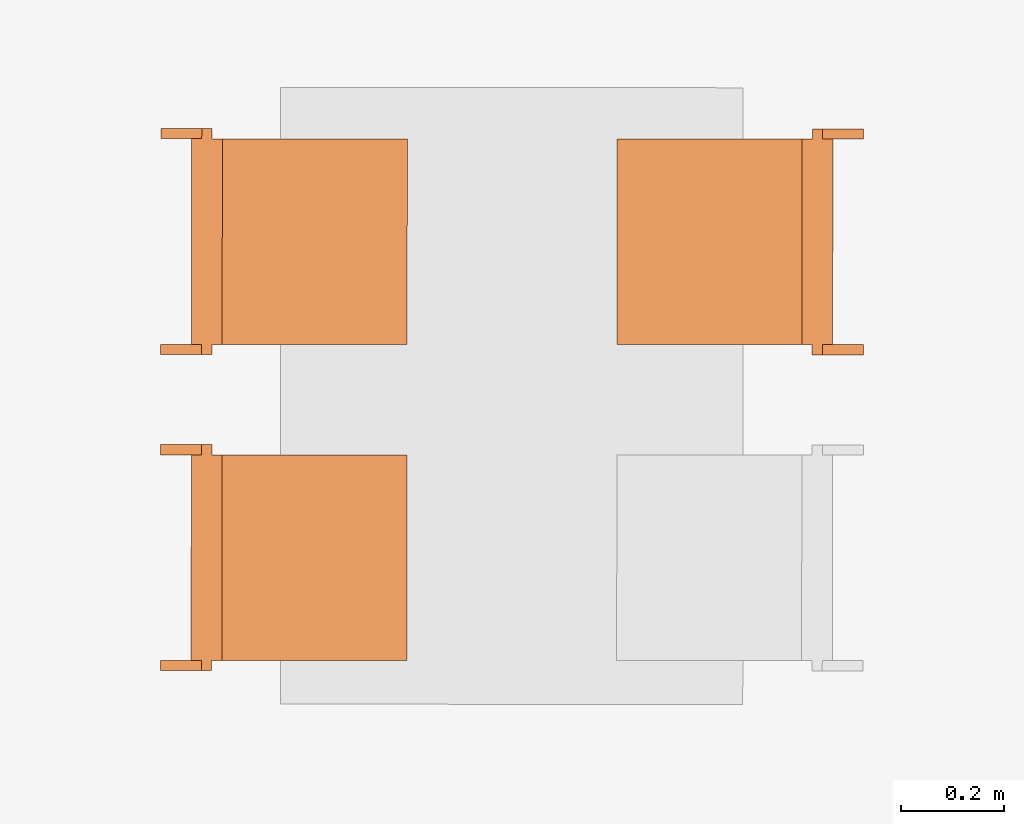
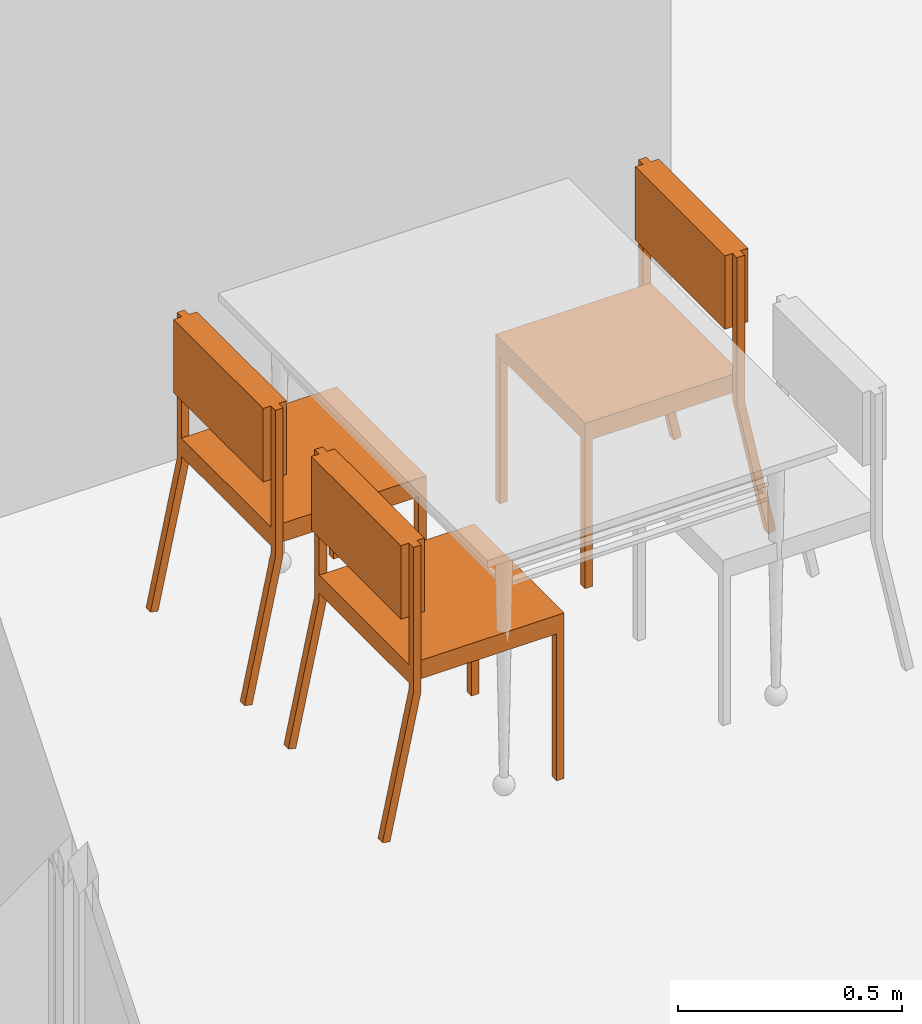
# One storey, part 150 of 171: 3 proxies.
"""IFC2X3 building model written with IfcOpenShell, lengths in millimetres."""

from ifc_helpers import new_model, entity, si_unit, converted_unit, derived_unit, money_unit, direction, frame, origin_with_axes, place, context, subcontext, project, spatial, faceted_brep, source, transform, mapped, type_object, element, save


model = new_model("IFC2X3")

# Units and contexts
model_context = context("Model", 3, precision=0.01, world=origin_with_axes(), true_north=direction((0.0, 1.0)))
body_context = subcontext(model_context, "Body", "Model", "MODEL_VIEW")
ifc_project = project(units=[si_unit("LENGTHUNIT", "METRE", prefix="MILLI"), si_unit("AREAUNIT", "SQUARE_METRE"), si_unit("VOLUMEUNIT", "CUBIC_METRE"), converted_unit("PLANEANGLEUNIT", "DEGREE", entity("IfcPlaneAngleMeasure", 0.0174532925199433), si_unit("PLANEANGLEUNIT", "RADIAN"), dimensions=[0, 0, 0, 0, 0, 0, 0]), money_unit("USD"), converted_unit("TIMEUNIT", "Year", entity("IfcTimeMeasure", 31557600.0), si_unit("TIMEUNIT", "SECOND"), dimensions=[0, 0, 1, 0, 0, 0, 0]), si_unit("MASSUNIT", "GRAM", prefix="KILO"), si_unit("THERMODYNAMICTEMPERATUREUNIT", "DEGREE_CELSIUS"), si_unit("LUMINOUSINTENSITYUNIT", "LUMEN"), si_unit("ENERGYUNIT", "JOULE", prefix="MEGA"), derived_unit("THERMALCONDUCTANCEUNIT", [(si_unit("POWERUNIT", "WATT"), 1), (si_unit("LENGTHUNIT", "METRE"), -1), (si_unit("THERMODYNAMICTEMPERATUREUNIT", "KELVIN"), -1)]), derived_unit("SPECIFICHEATCAPACITYUNIT", [(si_unit("ENERGYUNIT", "JOULE"), 1), (si_unit("MASSUNIT", "GRAM", prefix="KILO"), -1), (si_unit("THERMODYNAMICTEMPERATUREUNIT", "KELVIN"), -1)]), derived_unit("MASSDENSITYUNIT", [(si_unit("MASSUNIT", "GRAM", prefix="KILO"), 1), (si_unit("VOLUMEUNIT", "CUBIC_METRE"), -1)])], contexts=[model_context])

# Site, building, storey
site_placement = place(None, origin_with_axes())
site = spatial("IfcSite", under=ifc_project, at=site_placement, Name="Site", CompositionType="ELEMENT")
building_placement = place(site_placement, origin_with_axes())
building = spatial("IfcBuilding", under=site, at=building_placement, Name="Bâtiment", CompositionType="ELEMENT")
storey_placement = place(building_placement, frame((0.0, 0.0, 3000.0), z_axis=(0.0, 0.0, 1.0), x_axis=(1.0, 0.0, 0.0)))
storey = spatial("IfcBuildingStorey", under=building, at=storey_placement, Name="rdc", CompositionType="ELEMENT", Elevation=3000.0)

# Proxies
building_element_proxy_type = type_object("IfcBuildingElementProxyType", PredefinedType="NOTDEFINED")
shared_shape_1 = source(origin_with_axes(), body_context, "Body", "Brep", [
    faceted_brep([(39.99999978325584, 0.0, 0.0), (19.99999989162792, 0.0, 0.0), (19.99999989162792, 19.99999936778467, 0.0), (39.99999978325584, 19.99999936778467, 0.0), (39.99999978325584, 0.0, 400.0), (19.99999989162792, 0.0, 400.0), (19.99999989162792, 19.99999936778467, 400.0), (39.99999978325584, 19.99999936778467, 400.0)], [[[0, 1, 2, 3]], [[1, 0, 4, 5]], [[2, 1, 5, 6]], [[3, 2, 6, 7]], [[0, 3, 7, 4]], [[5, 4, 7, 6]]]),
    faceted_brep([(419.9999977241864, 0.0, 0.0), (399.9999978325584, 0.0, 0.0), (399.9999978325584, 19.99999936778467, 0.0), (419.9999977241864, 19.99999936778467, 0.0), (419.9999977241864, 0.0, 400.0), (399.9999978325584, 0.0, 400.0), (399.9999978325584, 19.99999936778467, 400.0), (419.9999977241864, 19.99999936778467, 400.0)], [[[0, 1, 2, 3]], [[1, 0, 4, 5]], [[2, 1, 5, 6]], [[3, 2, 6, 7]], [[0, 3, 7, 4]], [[5, 4, 7, 6]]]),
    faceted_brep([(399.9999978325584, 0.0, 400.0000000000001), (39.99999978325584, 0.0, 400.0000000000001), (39.99999978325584, 19.99999936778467, 400.0000000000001), (399.9999978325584, 19.99999936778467, 400.0000000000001), (399.9999978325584, 0.0, 420.0000000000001), (39.99999978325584, 0.0, 420.0000000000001), (39.99999978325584, 19.99999936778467, 420.0000000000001), (399.9999978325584, 19.99999936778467, 420.0000000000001)], [[[0, 1, 2, 3]], [[1, 0, 4, 5]], [[2, 1, 5, 6]], [[3, 2, 6, 7]], [[0, 3, 7, 4]], [[5, 4, 7, 6]]]),
    faceted_brep([(39.99999978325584, 19.99999936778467, 400.0000000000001), (19.99999989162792, 19.99999936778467, 400.0000000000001), (19.99999989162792, 379.9999879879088, 400.0000000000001), (39.99999978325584, 379.9999879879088, 400.0000000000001), (39.99999978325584, 19.99999936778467, 420.0000000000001), (19.99999989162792, 19.99999936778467, 420.0000000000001), (19.99999989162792, 379.9999879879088, 420.0000000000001), (39.99999978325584, 379.9999879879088, 420.0000000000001)], [[[0, 1, 2, 3]], [[1, 0, 4, 5]], [[2, 1, 5, 6]], [[3, 2, 6, 7]], [[0, 3, 7, 4]], [[5, 4, 7, 6]]]),
    faceted_brep([(419.9999977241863, 379.9999879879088, 400.0000000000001), (19.99999989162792, 379.9999879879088, 400.0000000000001), (19.99999989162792, 399.9999873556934, 400.0000000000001), (419.9999977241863, 399.9999873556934, 400.0000000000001), (419.9999977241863, 379.9999879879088, 420.0000000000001), (19.99999989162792, 379.9999879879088, 420.0000000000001), (19.99999989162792, 399.9999873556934, 420.0000000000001), (419.9999977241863, 399.9999873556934, 420.0000000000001)], [[[0, 1, 2, 3]], [[1, 0, 4, 5]], [[2, 1, 5, 6]], [[3, 2, 6, 7]], [[0, 3, 7, 4]], [[5, 4, 7, 6]]]),
    faceted_brep([(419.9999977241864, 19.99999936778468, 400.0000000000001), (399.9999978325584, 19.99999936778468, 400.0000000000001), (399.9999978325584, 379.9999879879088, 400.0000000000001), (419.9999977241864, 379.9999879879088, 400.0000000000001), (419.9999977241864, 19.99999936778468, 420.0000000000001), (399.9999978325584, 19.99999936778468, 420.0000000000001), (399.9999978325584, 379.9999879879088, 420.0000000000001), (419.9999977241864, 379.9999879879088, 420.0000000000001)], [[[0, 1, 2, 3]], [[1, 0, 4, 5]], [[2, 1, 5, 6]], [[3, 2, 6, 7]], [[0, 3, 7, 4]], [[5, 4, 7, 6]]]),
    faceted_brep([(419.9999977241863, 0.0, 400.0), (19.99999989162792, 0.0, 400.0), (19.99999989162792, 399.9999873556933, 400.0), (419.9999977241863, 399.9999873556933, 400.0), (419.9999977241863, 0.0, 450.0), (19.99999989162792, 0.0, 450.0), (19.99999989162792, 399.9999873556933, 450.0), (419.9999977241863, 399.9999873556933, 450.0)], [[[0, 1, 2, 3]], [[1, 0, 4, 5]], [[2, 1, 5, 6]], [[3, 2, 6, 7]], [[0, 3, 7, 4]], [[5, 4, 7, 6]]]),
    faceted_brep([(19.99999989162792, 379.9999879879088, 380.0), (0.0, 379.9999879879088, 380.0), (0.0, 399.9999873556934, 380.0), (19.99999989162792, 399.9999873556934, 380.0), (19.99999989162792, 379.9999879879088, 780.0), (0.0, 379.9999879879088, 780.0), (0.0, 399.9999873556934, 780.0), (19.99999989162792, 399.9999873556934, 780.0)], [[[0, 1, 2, 3]], [[1, 0, 4, 5]], [[2, 1, 5, 6]], [[3, 2, 6, 7]], [[0, 3, 7, 4]], [[5, 4, 7, 6]]]),
    faceted_brep([(439.9999976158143, 379.9999879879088, 380.0), (419.9999977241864, 379.9999879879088, 380.0), (419.9999977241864, 399.9999873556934, 380.0), (439.9999976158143, 399.9999873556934, 380.0), (439.9999976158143, 379.9999879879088, 780.0), (419.9999977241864, 379.9999879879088, 780.0), (419.9999977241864, 399.9999873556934, 780.0), (439.9999976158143, 399.9999873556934, 780.0)], [[[0, 1, 2, 3]], [[1, 0, 4, 5]], [[2, 1, 5, 6]], [[3, 2, 6, 7]], [[0, 3, 7, 4]], [[5, 4, 7, 6]]]),
    faceted_brep([(419.9999977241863, 359.999988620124, 580.0000000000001), (19.99999989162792, 359.999988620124, 580.0000000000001), (19.99999989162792, 419.9999867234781, 580.0000000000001), (419.9999977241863, 419.9999867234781, 580.0000000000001), (419.9999977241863, 359.999988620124, 780.0), (19.99999989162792, 359.999988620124, 780.0), (19.99999989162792, 419.9999867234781, 780.0), (419.9999977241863, 419.9999867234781, 780.0)], [[[0, 1, 2, 3]], [[1, 0, 4, 5]], [[2, 1, 5, 6]], [[3, 2, 6, 7]], [[0, 3, 7, 4]], [[5, 4, 7, 6]]]),
    faceted_brep([(19.99999989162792, 459.9999854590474, 0.0), (0.0, 459.9999854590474, 0.0), (0.0, 479.5709559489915, 4.120326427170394), (19.99999989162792, 479.5709559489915, 4.120326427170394), (19.99999989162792, 379.997669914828, 379.999760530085), (0.0, 379.997669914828, 379.999760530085), (0.0, 399.5686404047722, 384.1200869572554), (19.99999989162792, 399.5686404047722, 384.1200869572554)], [[[0, 1, 2, 3]], [[1, 0, 4, 5]], [[2, 1, 5, 6]], [[3, 2, 6, 7]], [[0, 3, 7, 4]], [[5, 4, 7, 6]]]),
    faceted_brep([(439.9999976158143, 459.9999854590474, 0.0), (419.9999977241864, 459.9999854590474, 0.0), (419.9999977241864, 479.5709559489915, 4.120326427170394), (439.9999976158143, 479.5709559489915, 4.120326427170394), (439.9999976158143, 379.997669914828, 379.999760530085), (419.9999977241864, 379.997669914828, 379.999760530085), (419.9999977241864, 399.5686404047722, 384.1200869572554), (439.9999976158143, 399.5686404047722, 384.1200869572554)], [[[0, 1, 2, 3]], [[1, 0, 4, 5]], [[2, 1, 5, 6]], [[3, 2, 6, 7]], [[0, 3, 7, 4]], [[5, 4, 7, 6]]]),
])
proxy_placement = place(storey_placement, frame((2220345.250777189, -639218.192171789, 0.0), z_axis=(0.0, 0.0, 1.0), x_axis=(-0.0005412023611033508, -0.9999998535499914, 0.0)))
element("IfcBuildingElementProxy", 1, at=proxy_placement, inside=storey, type_object=building_element_proxy_type, Name="Obj.-027", context=body_context, shape_type="MappedRepresentation", body=[
    mapped(shared_shape_1, transform((0.0, 0.0, 0.0))),
])
shared_shape_2 = source(origin_with_axes(), body_context, "Body", "Brep", [
    faceted_brep([(-39.99999978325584, 0.0, 0.0), (-39.99999978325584, 19.99999936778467, 0.0), (-19.99999989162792, 19.99999936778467, 0.0), (-19.99999989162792, 0.0, 0.0), (-39.99999978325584, 0.0, 400.0), (-39.99999978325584, 19.99999936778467, 400.0), (-19.99999989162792, 19.99999936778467, 400.0), (-19.99999989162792, 0.0, 400.0)], [[[0, 1, 2, 3]], [[0, 4, 5, 1]], [[1, 5, 6, 2]], [[2, 6, 7, 3]], [[3, 7, 4, 0]], [[7, 6, 5, 4]]]),
    faceted_brep([(-419.9999977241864, 0.0, 0.0), (-419.9999977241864, 19.99999936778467, 0.0), (-399.9999978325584, 19.99999936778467, 0.0), (-399.9999978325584, 0.0, 0.0), (-419.9999977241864, 0.0, 400.0), (-419.9999977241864, 19.99999936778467, 400.0), (-399.9999978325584, 19.99999936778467, 400.0), (-399.9999978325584, 0.0, 400.0)], [[[0, 1, 2, 3]], [[0, 4, 5, 1]], [[1, 5, 6, 2]], [[2, 6, 7, 3]], [[3, 7, 4, 0]], [[7, 6, 5, 4]]]),
    faceted_brep([(-399.9999978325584, 0.0, 400.0000000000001), (-399.9999978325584, 19.99999936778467, 400.0000000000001), (-39.99999978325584, 19.99999936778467, 400.0000000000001), (-39.99999978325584, 0.0, 400.0000000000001), (-399.9999978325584, 0.0, 420.0000000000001), (-399.9999978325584, 19.99999936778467, 420.0000000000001), (-39.99999978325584, 19.99999936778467, 420.0000000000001), (-39.99999978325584, 0.0, 420.0000000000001)], [[[0, 1, 2, 3]], [[0, 4, 5, 1]], [[1, 5, 6, 2]], [[2, 6, 7, 3]], [[3, 7, 4, 0]], [[7, 6, 5, 4]]]),
    faceted_brep([(-39.99999978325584, 19.99999936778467, 400.0000000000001), (-39.99999978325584, 379.9999879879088, 400.0000000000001), (-19.99999989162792, 379.9999879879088, 400.0000000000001), (-19.99999989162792, 19.99999936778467, 400.0000000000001), (-39.99999978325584, 19.99999936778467, 420.0000000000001), (-39.99999978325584, 379.9999879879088, 420.0000000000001), (-19.99999989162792, 379.9999879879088, 420.0000000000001), (-19.99999989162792, 19.99999936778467, 420.0000000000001)], [[[0, 1, 2, 3]], [[0, 4, 5, 1]], [[1, 5, 6, 2]], [[2, 6, 7, 3]], [[3, 7, 4, 0]], [[7, 6, 5, 4]]]),
    faceted_brep([(-419.9999977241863, 379.9999879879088, 400.0000000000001), (-419.9999977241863, 399.9999873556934, 400.0000000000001), (-19.99999989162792, 399.9999873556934, 400.0000000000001), (-19.99999989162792, 379.9999879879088, 400.0000000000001), (-419.9999977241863, 379.9999879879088, 420.0000000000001), (-419.9999977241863, 399.9999873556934, 420.0000000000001), (-19.99999989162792, 399.9999873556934, 420.0000000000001), (-19.99999989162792, 379.9999879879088, 420.0000000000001)], [[[0, 1, 2, 3]], [[0, 4, 5, 1]], [[1, 5, 6, 2]], [[2, 6, 7, 3]], [[3, 7, 4, 0]], [[7, 6, 5, 4]]]),
    faceted_brep([(-419.9999977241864, 19.99999936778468, 400.0000000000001), (-419.9999977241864, 379.9999879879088, 400.0000000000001), (-399.9999978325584, 379.9999879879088, 400.0000000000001), (-399.9999978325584, 19.99999936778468, 400.0000000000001), (-419.9999977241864, 19.99999936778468, 420.0000000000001), (-419.9999977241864, 379.9999879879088, 420.0000000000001), (-399.9999978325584, 379.9999879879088, 420.0000000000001), (-399.9999978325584, 19.99999936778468, 420.0000000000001)], [[[0, 1, 2, 3]], [[0, 4, 5, 1]], [[1, 5, 6, 2]], [[2, 6, 7, 3]], [[3, 7, 4, 0]], [[7, 6, 5, 4]]]),
    faceted_brep([(-419.9999977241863, 0.0, 400.0), (-419.9999977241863, 399.9999873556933, 400.0), (-19.99999989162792, 399.9999873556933, 400.0), (-19.99999989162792, 0.0, 400.0), (-419.9999977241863, 0.0, 450.0), (-419.9999977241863, 399.9999873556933, 450.0), (-19.99999989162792, 399.9999873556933, 450.0), (-19.99999989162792, 0.0, 450.0)], [[[0, 1, 2, 3]], [[0, 4, 5, 1]], [[1, 5, 6, 2]], [[2, 6, 7, 3]], [[3, 7, 4, 0]], [[7, 6, 5, 4]]]),
    faceted_brep([(-19.99999989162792, 379.9999879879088, 380.0), (-19.99999989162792, 399.9999873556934, 380.0), (0.0, 399.9999873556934, 380.0), (0.0, 379.9999879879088, 380.0), (-19.99999989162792, 379.9999879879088, 780.0), (-19.99999989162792, 399.9999873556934, 780.0), (0.0, 399.9999873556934, 780.0), (0.0, 379.9999879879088, 780.0)], [[[0, 1, 2, 3]], [[0, 4, 5, 1]], [[1, 5, 6, 2]], [[2, 6, 7, 3]], [[3, 7, 4, 0]], [[7, 6, 5, 4]]]),
    faceted_brep([(-439.9999976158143, 379.9999879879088, 380.0), (-439.9999976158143, 399.9999873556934, 380.0), (-419.9999977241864, 399.9999873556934, 380.0), (-419.9999977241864, 379.9999879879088, 380.0), (-439.9999976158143, 379.9999879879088, 780.0), (-439.9999976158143, 399.9999873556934, 780.0), (-419.9999977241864, 399.9999873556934, 780.0), (-419.9999977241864, 379.9999879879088, 780.0)], [[[0, 1, 2, 3]], [[0, 4, 5, 1]], [[1, 5, 6, 2]], [[2, 6, 7, 3]], [[3, 7, 4, 0]], [[7, 6, 5, 4]]]),
    faceted_brep([(-419.9999977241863, 359.999988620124, 580.0000000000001), (-419.9999977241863, 419.9999867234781, 580.0000000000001), (-19.99999989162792, 419.9999867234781, 580.0000000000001), (-19.99999989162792, 359.999988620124, 580.0000000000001), (-419.9999977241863, 359.999988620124, 780.0), (-419.9999977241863, 419.9999867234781, 780.0), (-19.99999989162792, 419.9999867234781, 780.0), (-19.99999989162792, 359.999988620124, 780.0)], [[[0, 1, 2, 3]], [[0, 4, 5, 1]], [[1, 5, 6, 2]], [[2, 6, 7, 3]], [[3, 7, 4, 0]], [[7, 6, 5, 4]]]),
    faceted_brep([(-19.99999989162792, 459.9999854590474, 0.0), (-19.99999989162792, 479.5709559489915, 4.120326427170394), (0.0, 479.5709559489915, 4.120326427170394), (0.0, 459.9999854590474, 0.0), (-19.99999989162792, 379.997669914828, 379.999760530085), (-19.99999989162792, 399.5686404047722, 384.1200869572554), (0.0, 399.5686404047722, 384.1200869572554), (0.0, 379.997669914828, 379.999760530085)], [[[0, 1, 2, 3]], [[0, 4, 5, 1]], [[1, 5, 6, 2]], [[2, 6, 7, 3]], [[3, 7, 4, 0]], [[7, 6, 5, 4]]]),
    faceted_brep([(-439.9999976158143, 459.9999854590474, 0.0), (-439.9999976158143, 479.5709559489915, 4.120326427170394), (-419.9999977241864, 479.5709559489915, 4.120326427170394), (-419.9999977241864, 459.9999854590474, 0.0), (-439.9999976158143, 379.997669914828, 379.999760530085), (-439.9999976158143, 399.5686404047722, 384.1200869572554), (-419.9999977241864, 399.5686404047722, 384.1200869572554), (-419.9999977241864, 379.997669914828, 379.999760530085)], [[[0, 1, 2, 3]], [[0, 4, 5, 1]], [[1, 5, 6, 2]], [[2, 6, 7, 3]], [[3, 7, 4, 0]], [[7, 6, 5, 4]]]),
])
for number, where, z_axis, x_axis, name in (
    (2, (2219936.860546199, -639833.0966450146, 0.0), (0.0, 0.0, 1.0), (0.0005412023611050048, 0.9999998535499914, 0.0), "Obj.-027"),
    (3, (2219937.193453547, -639217.9713301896, 0.0), (0.0, 0.0, 1.0), (0.0005412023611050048, 0.9999998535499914, 0.0), "Obj.-027"),
):
    element("IfcBuildingElementProxy", number, at=place(storey_placement, frame(where, z_axis=z_axis, x_axis=x_axis)), inside=storey, type_object=building_element_proxy_type, Name=name, context=body_context, shape_type="MappedRepresentation", body=[
        mapped(shared_shape_2, transform((0.0, 0.0, 0.0))),
    ])

save(model, "model.ifc")
